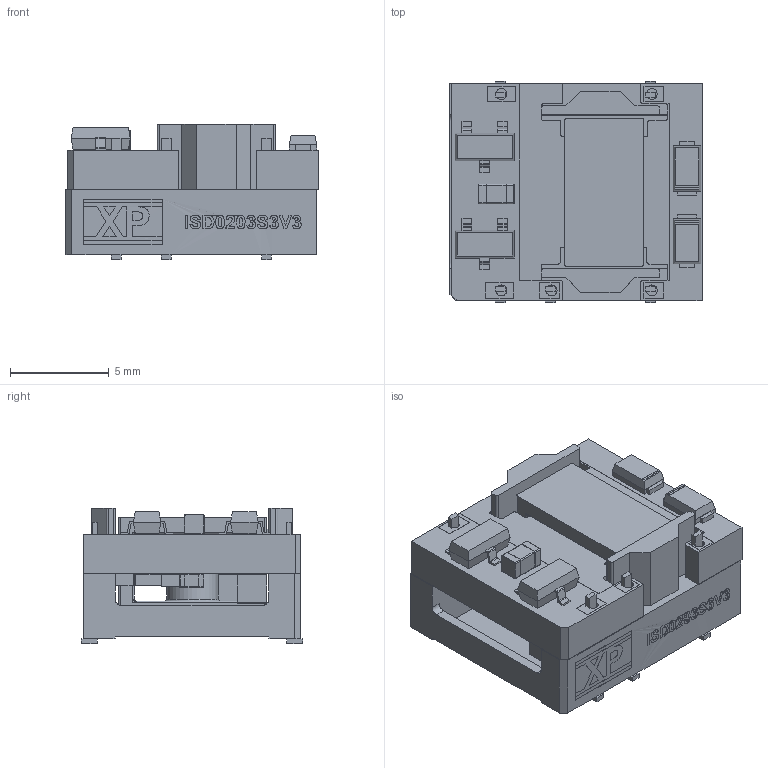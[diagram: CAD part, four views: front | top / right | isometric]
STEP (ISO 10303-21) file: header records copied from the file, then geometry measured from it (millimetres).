
FILE_DESCRIPTION (( 'STEP AP214' ), '1' );
FILE_NAME ('ISD02 Single Output3.STEP', '2022-02-24T18:34:15', ( '' ), ( '' ), 'SwSTEP 2.0', 'SolidWorks 2020', '' );
FILE_SCHEMA (( 'AUTOMOTIVE_DESIGN' ));
Length unit declared in the file: millimetre
Products named in the file (14): C-0603; ISD02 Single Output3; R-0805; C-0805; Diode-MicroSMP(DO-219AD); R-0603; C-0402; R-0603-1; Q1-Q2-SOT-23; F1-PCB; F1-Base-XP; 鐵芯ER7.7.5
Assembly tree (19 placements, depth 3):
  ISD02 Single Output3
    F1-PCB
    鐵芯ER7.7.5  x2
    C-0402
    R-0805
    C-0603
    R-0603
      R-0603
      R-0603-1
    Q1-Q2-SOT-23  x2
    C-0805  x2
    Diode-MicroSMP(DO-219AD)  x2
    F1-Base-XP
    R-0603
      R-0603
      R-0603-1
Bounding box: 12.77 x 11.2 x 6.85 mm (x, y, z)
Volume: 547.7 mm3; surface area: 1380.7 mm2
Topology: 14 solids, 17 shells, 979 faces, 2468 edges, 1564 vertices
Faces by surface type: plane 414, bspline 345, cylinder 220
Entity records: 30261 total; most frequent: CARTESIAN_POINT 10296, ORIENTED_EDGE 3749, DIRECTION 2706, EDGE_CURVE 1879, VECTOR 1244, LINE 1244, VERTEX_POINT 1196, EDGE_LOOP 805
